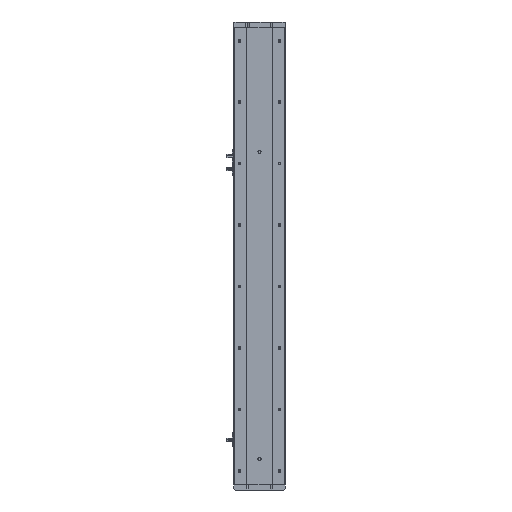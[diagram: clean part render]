
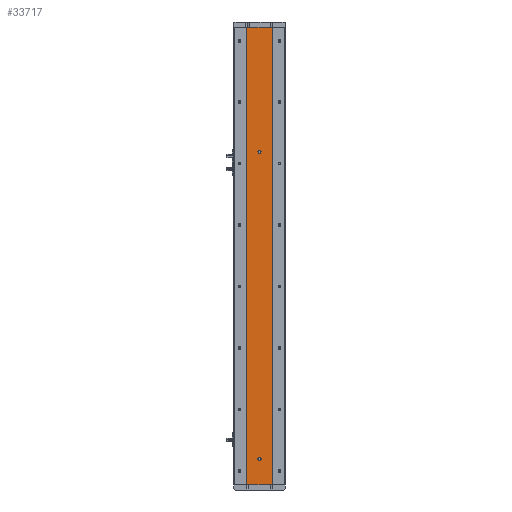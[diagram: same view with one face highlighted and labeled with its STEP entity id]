
A CAD part, left-side view. The second image highlights one B-rep face of the part: STEP entity #33717.
In plain terms, the highlighted planar face has unit normal (-1, 0, 0).
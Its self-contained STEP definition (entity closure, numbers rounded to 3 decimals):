
#256 = LINE ( 'NONE', #13061, #14934 ) ;
#506 = ORIENTED_EDGE ( 'NONE', *, *, #10935, .T. ) ;
#844 = CIRCLE ( 'NONE', #3418, 3. ) ;
#1270 = VECTOR ( 'NONE', #32593, 1000. ) ;
#1326 = CARTESIAN_POINT ( 'NONE',  ( -18.926, 0., 647. ) ) ;
#1491 = CARTESIAN_POINT ( 'NONE',  ( -18.926, 0., 653. ) ) ;
#1829 = AXIS2_PLACEMENT_3D ( 'NONE', #29615, #11949, #32539 ) ;
#2465 = EDGE_CURVE ( 'NONE', #27449, #25819, #6511, .T. ) ;
#3047 = PLANE ( 'NONE',  #18108 ) ;
#3285 = EDGE_CURVE ( 'NONE', #10681, #14564, #844, .T. ) ;
#3418 = AXIS2_PLACEMENT_3D ( 'NONE', #23899, #6288, #26849 ) ;
#3419 = VERTEX_POINT ( 'NONE', #21319 ) ;
#3429 = ORIENTED_EDGE ( 'NONE', *, *, #14891, .F. ) ;
#3708 = LINE ( 'NONE', #5408, #11474 ) ;
#4694 = VECTOR ( 'NONE', #29769, 1000. ) ;
#4774 = EDGE_CURVE ( 'NONE', #25819, #27449, #14853, .T. ) ;
#5408 = CARTESIAN_POINT ( 'NONE',  ( -18.926, 24.785, 893. ) ) ;
#5999 = DIRECTION ( 'NONE',  ( 1., 0., 0. ) ) ;
#6288 = DIRECTION ( 'NONE',  ( -1., 0., 0. ) ) ;
#6314 = EDGE_CURVE ( 'NONE', #3419, #20344, #16881, .T. ) ;
#6511 = CIRCLE ( 'NONE', #8149, 3. ) ;
#7045 = CARTESIAN_POINT ( 'NONE',  ( -18.926, 0., 50. ) ) ;
#7053 = EDGE_CURVE ( 'NONE', #28574, #29041, #256, .T. ) ;
#8149 = AXIS2_PLACEMENT_3D ( 'NONE', #8495, #14643, #23172 ) ;
#8495 = CARTESIAN_POINT ( 'NONE',  ( -18.926, 0., 50. ) ) ;
#9173 = EDGE_LOOP ( 'NONE', ( #24407, #37024 ) ) ;
#9938 = DIRECTION ( 'NONE',  ( 0., 0., 1. ) ) ;
#10357 = AXIS2_PLACEMENT_3D ( 'NONE', #7045, #27589, #9938 ) ;
#10681 = VERTEX_POINT ( 'NONE', #1491 ) ;
#10935 = EDGE_CURVE ( 'NONE', #29041, #20344, #28151, .T. ) ;
#11474 = VECTOR ( 'NONE', #23056, 1000. ) ;
#11645 = CARTESIAN_POINT ( 'NONE',  ( -18.926, 0., 47. ) ) ;
#11949 = DIRECTION ( 'NONE',  ( -1., 0., 0. ) ) ;
#13055 = FACE_BOUND ( 'NONE', #13497, .T. ) ;
#13061 = CARTESIAN_POINT ( 'NONE',  ( -18.926, 24.785, 893. ) ) ;
#13497 = EDGE_LOOP ( 'NONE', ( #37898, #3429 ) ) ;
#14008 = FACE_BOUND ( 'NONE', #9173, .T. ) ;
#14564 = VERTEX_POINT ( 'NONE', #1326 ) ;
#14643 = DIRECTION ( 'NONE',  ( -1., 0., 0. ) ) ;
#14853 = CIRCLE ( 'NONE', #10357, 3. ) ;
#14891 = EDGE_CURVE ( 'NONE', #14564, #10681, #36736, .T. ) ;
#14934 = VECTOR ( 'NONE', #33673, 1000. ) ;
#15066 = CARTESIAN_POINT ( 'NONE',  ( -18.926, 24.785, 0. ) ) ;
#15507 = ORIENTED_EDGE ( 'NONE', *, *, #7053, .T. ) ;
#16881 = LINE ( 'NONE', #29675, #1270 ) ;
#17590 = ORIENTED_EDGE ( 'NONE', *, *, #6314, .F. ) ;
#18108 = AXIS2_PLACEMENT_3D ( 'NONE', #23625, #5999, #26544 ) ;
#18842 = EDGE_LOOP ( 'NONE', ( #506, #17590, #34429, #15507 ) ) ;
#20344 = VERTEX_POINT ( 'NONE', #23242 ) ;
#21319 = CARTESIAN_POINT ( 'NONE',  ( -18.926, -24.785, 893. ) ) ;
#23056 = DIRECTION ( 'NONE',  ( 0., -1., 0. ) ) ;
#23082 = CARTESIAN_POINT ( 'NONE',  ( -18.926, 0., 53. ) ) ;
#23172 = DIRECTION ( 'NONE',  ( 0., 0., 1. ) ) ;
#23242 = CARTESIAN_POINT ( 'NONE',  ( -18.926, -24.785, 0. ) ) ;
#23625 = CARTESIAN_POINT ( 'NONE',  ( -18.926, 24.785, 893. ) ) ;
#23683 = CARTESIAN_POINT ( 'NONE',  ( -18.926, 24.785, 893. ) ) ;
#23899 = CARTESIAN_POINT ( 'NONE',  ( -18.926, 0., 650. ) ) ;
#24407 = ORIENTED_EDGE ( 'NONE', *, *, #4774, .F. ) ;
#25819 = VERTEX_POINT ( 'NONE', #23082 ) ;
#26544 = DIRECTION ( 'NONE',  ( 0., 0., -1. ) ) ;
#26849 = DIRECTION ( 'NONE',  ( 0., 0., 1. ) ) ;
#26867 = EDGE_CURVE ( 'NONE', #28574, #3419, #3708, .T. ) ;
#27230 = CARTESIAN_POINT ( 'NONE',  ( -18.926, 24.785, 0. ) ) ;
#27449 = VERTEX_POINT ( 'NONE', #11645 ) ;
#27589 = DIRECTION ( 'NONE',  ( -1., 0., 0. ) ) ;
#28151 = LINE ( 'NONE', #15066, #4694 ) ;
#28574 = VERTEX_POINT ( 'NONE', #23683 ) ;
#29041 = VERTEX_POINT ( 'NONE', #27230 ) ;
#29615 = CARTESIAN_POINT ( 'NONE',  ( -18.926, 0., 650. ) ) ;
#29675 = CARTESIAN_POINT ( 'NONE',  ( -18.926, -24.785, 893. ) ) ;
#29769 = DIRECTION ( 'NONE',  ( 0., -1., 0. ) ) ;
#32539 = DIRECTION ( 'NONE',  ( 0., 0., 1. ) ) ;
#32593 = DIRECTION ( 'NONE',  ( 0., 0., -1. ) ) ;
#33673 = DIRECTION ( 'NONE',  ( 0., 0., -1. ) ) ;
#33717 = ADVANCED_FACE ( 'NONE', ( #13055, #14008, #36552 ), #3047, .F. ) ;
#34429 = ORIENTED_EDGE ( 'NONE', *, *, #26867, .F. ) ;
#36552 = FACE_OUTER_BOUND ( 'NONE', #18842, .T. ) ;
#36736 = CIRCLE ( 'NONE', #1829, 3. ) ;
#37024 = ORIENTED_EDGE ( 'NONE', *, *, #2465, .F. ) ;
#37898 = ORIENTED_EDGE ( 'NONE', *, *, #3285, .F. ) ;
